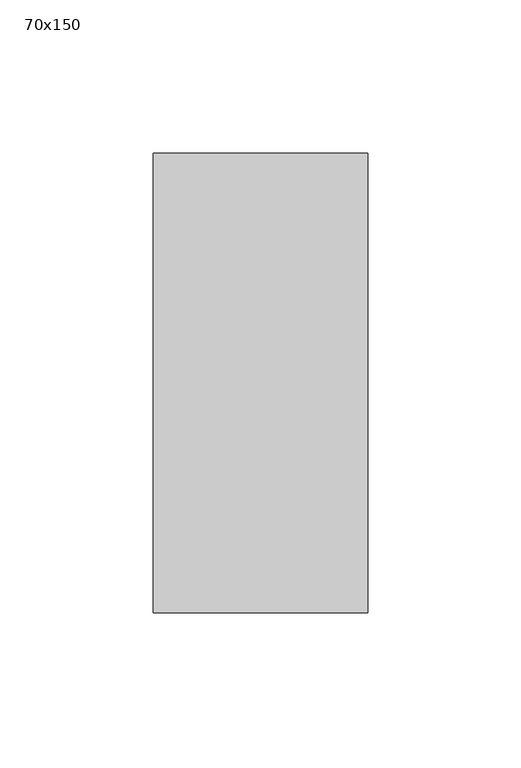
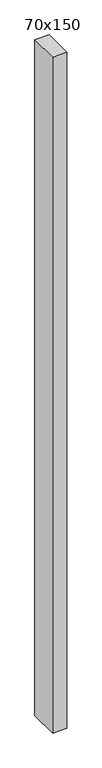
"""IFC4 building model written with IfcOpenShell, lengths in millimetres: member geometry, 長方形のマリオン : 70x150."""

from ifc_helpers import new_model, si_unit, frame, origin, place, context, project, spatial, polyline, outline, extrude, source, transform, mapped, element, save


def member_70x150_96cc92f8(model_context):
    return source(origin(), model_context, "Body", "SweptSolid", [
        extrude(outline(polyline([(35.0, 75.0), (35.0, -75.0), (-35.0, -75.0), (-35.0, 75.0), (35.0, 75.0)])), frame((0.0, 0.0, -3500.0), z_axis=(0.0, 0.0, 1.0), x_axis=(1.0, 0.0, 0.0)), (0.0, 0.0, 1.0), 3500.0),
    ])


if __name__ == "__main__":
    model = new_model("IFC4")
    model_context = context("Model", 3, world=origin())
    ifc_project = project(units=[si_unit("LENGTHUNIT", "METRE", prefix="MILLI")], contexts=[model_context])
    site = spatial("IfcSite", under=ifc_project)
    building = spatial("IfcBuilding", under=site)
    placement = place(None, origin())
    member_70x150_shape = member_70x150_96cc92f8(model_context)
    element("IfcMember", 1, ObjectType="長方形のマリオン : 70x150", at=placement, inside=building, context=model_context, shape_type="MappedRepresentation", body=[
        mapped(member_70x150_shape, transform((0.0, 0.0, 0.0), x_axis=(1.0, 0.0, 0.0), y_axis=(0.0, 1.0, 0.0), z_axis=(0.0, 0.0, 1.0))),
    ])
    save(model, "model.ifc")
